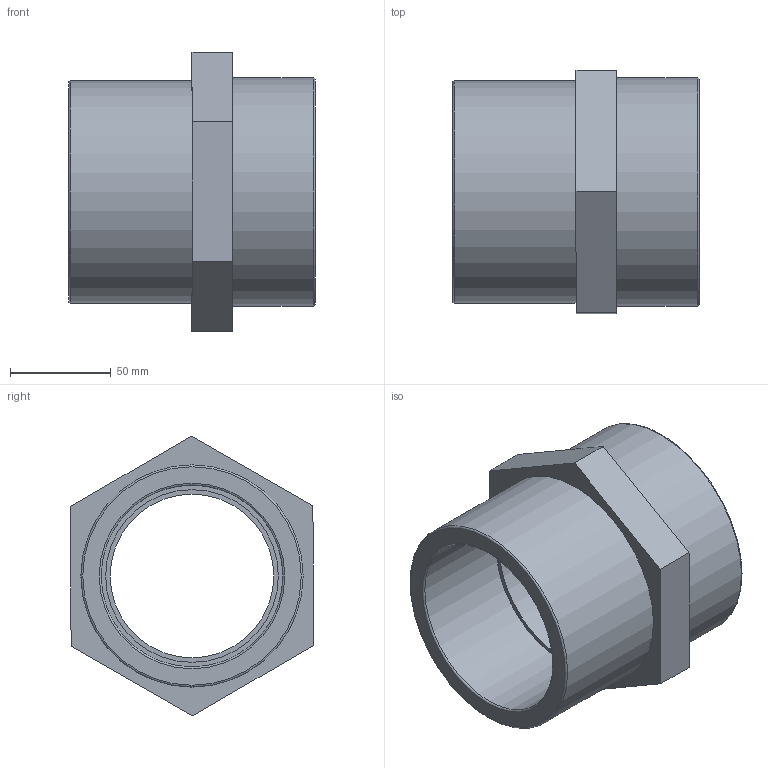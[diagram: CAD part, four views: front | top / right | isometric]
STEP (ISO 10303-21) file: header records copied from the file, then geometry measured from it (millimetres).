
FILE_DESCRIPTION(/* description */ ('PLASSON NIPPLE THR-CEM PVC 110(90)4"'),/* implementation_level */ '2;1');
FILE_NAME(/* name */ 'C:\Dropbox\KIMPROJECTS-Inventor\99-16-3568-Processing\PVC Catalog 2017\26_09_18\050602\050602110040.ipt.stp',/* time_stamp */ '2018-09-27T11:50:23+03:00',/* author */ ('KIM'),/* organization */ (''),/* preprocessor_version */ 'ST-DEVELOPER v15.6',/* originating_system */ 'Autodesk Inventor 2015',/* authorisation */ '');
FILE_SCHEMA (('AUTOMOTIVE_DESIGN { 1 0 10303 214 3 1 1 }'));
Length unit declared in the file: millimetre
Products named in the file (1): 050602110040
Bounding box: 122 x 120.24 x 138.56 mm (x, y, z)
Volume: 537160.4 mm3; surface area: 90905.6 mm2
Topology: 1 solids, 1 shells, 21 faces, 41 edges, 26 vertices
Faces by surface type: plane 12, cylinder 5, torus 4
Full cylindrical faces by diameter (mm): 81 x1, 85.5 x1, 90 x1, 110 x1, 113.03 x1
Entity records: 520 total; most frequent: DIRECTION 90, CARTESIAN_POINT 80, ORIENTED_EDGE 64, EDGE_LOOP 36, AXIS2_PLACEMENT_3D 36, EDGE_CURVE 32, VERTEX_POINT 26, FACE_OUTER_BOUND 21
